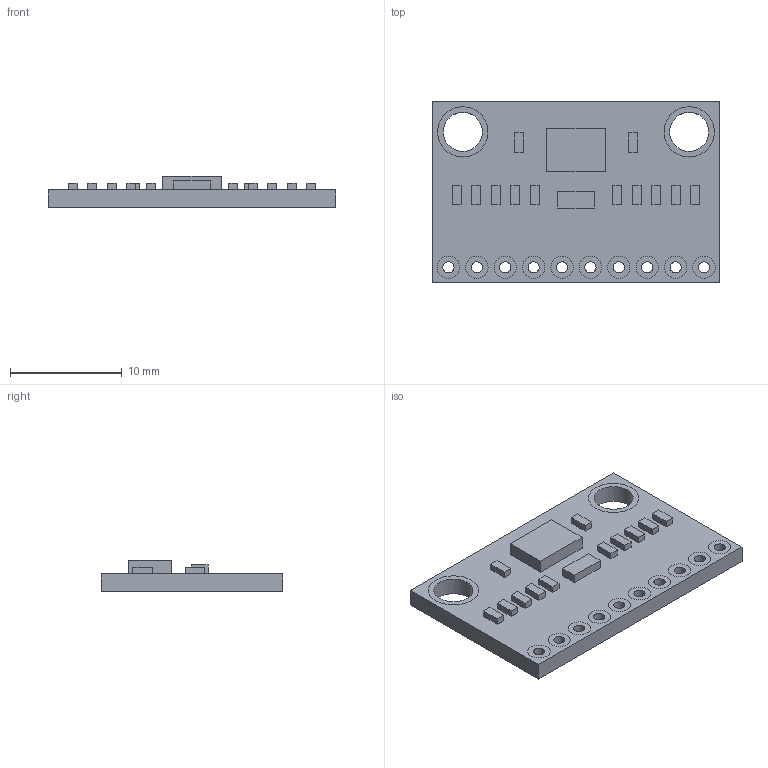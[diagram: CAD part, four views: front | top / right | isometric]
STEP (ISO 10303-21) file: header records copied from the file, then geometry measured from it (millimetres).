
FILE_DESCRIPTION(/* description */ ('STEP AP242 Edition 2','CAx-IF Rec.Pracs.---Representation and Presentation of Product Manufacturing Information (PMI)---4.0---2014-10-13','CAx-IF Rec.Pracs.---3D Tessellated Geometry---0.4---2014-09-14','2;1','CAx-IF Rec.Pracs.---User Defined Attributes---1.5---2016-08-15'),/* implementation_level */ '2;1');
FILE_NAME(/* name */ 'BNO085 imu',/* time_stamp */ '2026-06-23T03:01:29Z',/* author */ (''),/* organization */ (''),/* preprocessor_version */ 'ST-DEVELOPER v20',/* originating_system */ 'ONSHAPE BY PTC INC, 1.216',/* authorisation */ ' ');
FILE_SCHEMA (('AP242_MANAGED_MODEL_BASED_3D_ENGINEERING_MIM_LF { 1 0 10303 442 3 1 4 }'));
Length unit declared in the file: metre
Products named in the file (47): Part 42; Part 6; Part 37; Part 38; Part 35; Part 33; Part 36; Part 5; Part 1; Part 34; Part 44; Part 8; Part 21; Part 40; Part 43; Part 7; Part 39; Part 46; Part 30; Part 10; Part 45; Part 29; Part 9; Part 41; Part 11; Part 32; Part 47; Part 31; Part 3; Part 2; Part 13; Part 12; Part 26; Part 15; Part 18; Part 28; Part 14; Part 20; Part 27; Part 17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
Bounding box: 25.75 x 16.25 x 2.8 mm (x, y, z)
Volume: 739.8 mm3; surface area: 1839.8 mm2
Topology: 47 solids, 47 shells, 230 faces, 408 edges, 272 vertices
Faces by surface type: plane 154, cylinder 76
Full cylindrical faces by diameter (mm): 1 x30, 2 x40, 3.5 x2, 4.5 x4
Entity records: 6555 total; most frequent: DIRECTION 1038, CARTESIAN_POINT 881, ORIENTED_EDGE 664, AXIS2_PLACEMENT_3D 429, EDGE_LOOP 394, FACE_BOUND 394, EDGE_CURVE 332, VERTEX_POINT 272
